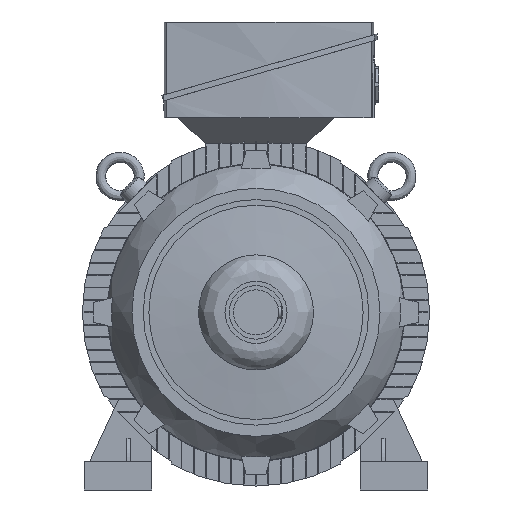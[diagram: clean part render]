
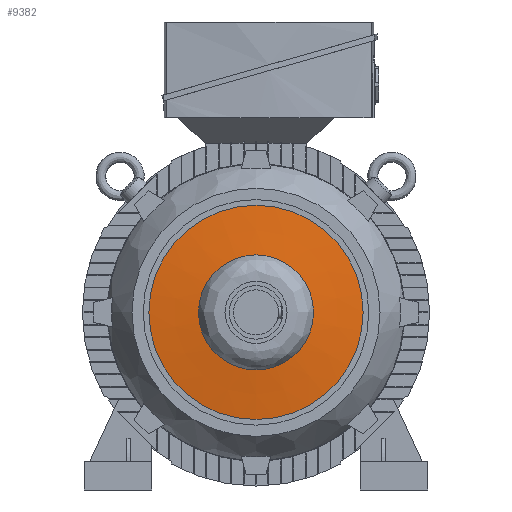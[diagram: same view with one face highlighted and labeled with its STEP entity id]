
A CAD part, left-side view. The second image highlights one B-rep face of the part: STEP entity #9382.
In plain terms, the highlighted conical face has half-angle 83.517 degrees and reference radius 190 mm.
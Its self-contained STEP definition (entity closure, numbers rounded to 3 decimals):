
#9382 = ADVANCED_FACE ( 'NONE', ( #15617, #15612 ), #15625, .T. ) ;
#15612 = FACE_BOUND ( 'NONE', #28058, .T. ) ;
#15617 = FACE_OUTER_BOUND ( 'NONE', #28054, .T. ) ;
#15625 = CONICAL_SURFACE ( 'NONE', #16792, 190., 1.458 ) ;
#16792 = AXIS2_PLACEMENT_3D ( 'NONE', #17811, #17814, #17821 ) ;
#17811 = CARTESIAN_POINT ( 'NONE',  ( -64., 0., 0. ) ) ;
#17814 = DIRECTION ( 'NONE',  ( 1., 0., 0. ) ) ;
#17821 = DIRECTION ( 'NONE',  ( 0., 0., -1. ) ) ;
#27689 = ORIENTED_EDGE ( 'NONE', *, *, #29751, .F. ) ;
#27690 = ORIENTED_EDGE ( 'NONE', *, *, #29810, .T. ) ;
#28054 = EDGE_LOOP ( 'NONE', ( #27689 ) ) ;
#28058 = EDGE_LOOP ( 'NONE', ( #27690 ) ) ;
#29751 = EDGE_CURVE ( 'NONE', #53545, #53545, #41368, .T. ) ;
#29810 = EDGE_CURVE ( 'NONE', #53546, #53546, #41430, .T. ) ;
#39544 = AXIS2_PLACEMENT_3D ( 'NONE', #46771, #46772, #46773 ) ;
#39548 = AXIS2_PLACEMENT_3D ( 'NONE', #46912, #46913, #46914 ) ;
#41368 = CIRCLE ( 'NONE', #39544, 190. ) ;
#41430 = CIRCLE ( 'NONE', #39548, 102. ) ;
#46771 = CARTESIAN_POINT ( 'NONE',  ( -64., 0., 0. ) ) ;
#46772 = DIRECTION ( 'NONE',  ( 1., 0., 0. ) ) ;
#46773 = DIRECTION ( 'NONE',  ( 0., 0., -1. ) ) ;
#46912 = CARTESIAN_POINT ( 'NONE',  ( -74., 0., 0. ) ) ;
#46913 = DIRECTION ( 'NONE',  ( 1., 0., 0. ) ) ;
#46914 = DIRECTION ( 'NONE',  ( 0., 1., 0. ) ) ;
#53163 = CARTESIAN_POINT ( 'NONE',  ( -64., 0., -190. ) ) ;
#53164 = CARTESIAN_POINT ( 'NONE',  ( -74., 102., 0. ) ) ;
#53545 = VERTEX_POINT ( 'NONE', #53163 ) ;
#53546 = VERTEX_POINT ( 'NONE', #53164 ) ;
